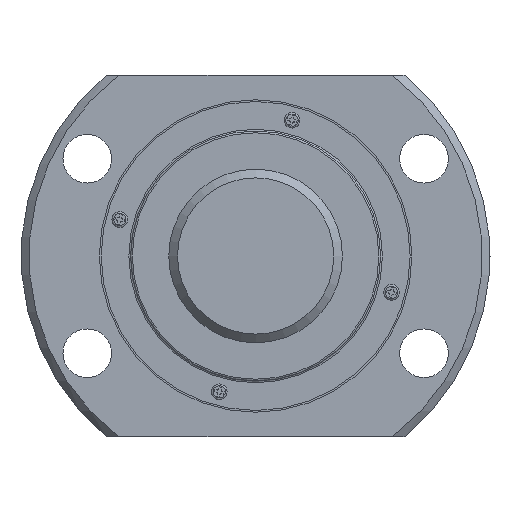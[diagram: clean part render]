
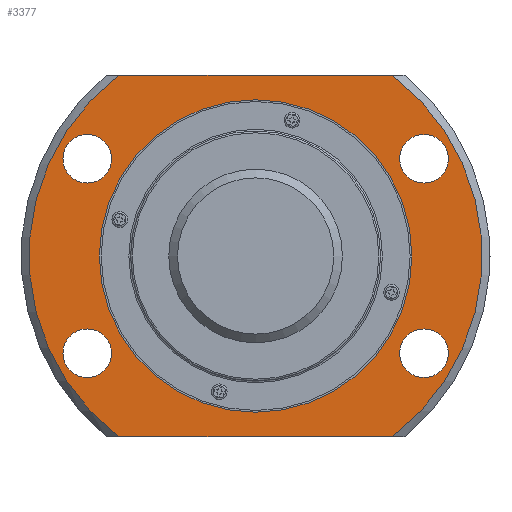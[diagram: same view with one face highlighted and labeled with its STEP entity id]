
A CAD part, left-side view. The second image highlights one B-rep face of the part: STEP entity #3377.
In plain terms, the highlighted planar face has unit normal (-1, 0, 0).
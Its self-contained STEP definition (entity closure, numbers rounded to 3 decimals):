
#37=LINE('',#5080,#365);
#38=LINE('',#5081,#366);
#365=VECTOR('',#4023,1000.);
#366=VECTOR('',#4024,1000.);
#721=PLANE('',#3628);
#887=ORIENTED_EDGE('',*,*,#1823,.T.);
#888=ORIENTED_EDGE('',*,*,#1824,.T.);
#889=ORIENTED_EDGE('',*,*,#1825,.T.);
#890=ORIENTED_EDGE('',*,*,#1826,.T.);
#891=ORIENTED_EDGE('',*,*,#1827,.T.);
#892=ORIENTED_EDGE('',*,*,#1818,.F.);
#893=ORIENTED_EDGE('',*,*,#1828,.T.);
#894=ORIENTED_EDGE('',*,*,#1821,.F.);
#895=ORIENTED_EDGE('',*,*,#1829,.T.);
#1818=EDGE_CURVE('',#2286,#2287,#2617,.T.);
#1821=EDGE_CURVE('',#2288,#2289,#2618,.T.);
#1823=EDGE_CURVE('',#2290,#2290,#2619,.T.);
#1824=EDGE_CURVE('',#2291,#2291,#2620,.T.);
#1825=EDGE_CURVE('',#2292,#2292,#2621,.T.);
#1826=EDGE_CURVE('',#2293,#2293,#2622,.T.);
#1827=EDGE_CURVE('',#2294,#2294,#2623,.T.);
#1828=EDGE_CURVE('',#2286,#2289,#37,.T.);
#1829=EDGE_CURVE('',#2288,#2287,#38,.T.);
#2286=VERTEX_POINT('',#5050);
#2287=VERTEX_POINT('',#5052);
#2288=VERTEX_POINT('',#5062);
#2289=VERTEX_POINT('',#5064);
#2290=VERTEX_POINT('',#5071);
#2291=VERTEX_POINT('',#5073);
#2292=VERTEX_POINT('',#5075);
#2293=VERTEX_POINT('',#5077);
#2294=VERTEX_POINT('',#5079);
#2617=CIRCLE('',#3625,65.25);
#2618=CIRCLE('',#3627,65.25);
#2619=CIRCLE('',#3629,45.);
#2620=CIRCLE('',#3630,7.);
#2621=CIRCLE('',#3631,7.);
#2622=CIRCLE('',#3632,7.);
#2623=CIRCLE('',#3633,7.);
#2759=EDGE_LOOP('',(#887));
#2760=EDGE_LOOP('',(#888));
#2761=EDGE_LOOP('',(#889));
#2762=EDGE_LOOP('',(#890));
#2763=EDGE_LOOP('',(#891));
#2764=EDGE_LOOP('',(#892,#893,#894,#895));
#3043=FACE_BOUND('',#2759,.T.);
#3044=FACE_BOUND('',#2760,.T.);
#3045=FACE_BOUND('',#2761,.T.);
#3046=FACE_BOUND('',#2762,.T.);
#3047=FACE_BOUND('',#2763,.T.);
#3048=FACE_BOUND('',#2764,.T.);
#3377=ADVANCED_FACE('',(#3043,#3044,#3045,#3046,#3047,#3048),#721,.T.);
#3625=AXIS2_PLACEMENT_3D('',#5051,#4005,#4006);
#3627=AXIS2_PLACEMENT_3D('',#5063,#4009,#4010);
#3628=AXIS2_PLACEMENT_3D('',#5069,#4011,#4012);
#3629=AXIS2_PLACEMENT_3D('',#5070,#4013,#4014);
#3630=AXIS2_PLACEMENT_3D('',#5072,#4015,#4016);
#3631=AXIS2_PLACEMENT_3D('',#5074,#4017,#4018);
#3632=AXIS2_PLACEMENT_3D('',#5076,#4019,#4020);
#3633=AXIS2_PLACEMENT_3D('',#5078,#4021,#4022);
#4005=DIRECTION('',(1.,0.,0.));
#4006=DIRECTION('',(0.,0.,-1.));
#4009=DIRECTION('',(1.,0.,0.));
#4010=DIRECTION('',(0.,0.,-1.));
#4011=DIRECTION('',(-1.,0.,0.));
#4012=DIRECTION('',(0.,0.,1.));
#4013=DIRECTION('',(1.,0.,0.));
#4014=DIRECTION('',(0.,0.,-1.));
#4015=DIRECTION('',(1.,0.,0.));
#4016=DIRECTION('',(0.,0.,-1.));
#4017=DIRECTION('',(1.,0.,0.));
#4018=DIRECTION('',(0.,0.,-1.));
#4019=DIRECTION('',(1.,0.,0.));
#4020=DIRECTION('',(0.,0.,-1.));
#4021=DIRECTION('',(1.,0.,0.));
#4022=DIRECTION('',(0.,0.,-1.));
#4023=DIRECTION('',(0.,1.,0.));
#4024=DIRECTION('',(0.,-1.,0.));
#5050=CARTESIAN_POINT('',(14.,-39.415,52.));
#5051=CARTESIAN_POINT('',(14.,0.,0.));
#5052=CARTESIAN_POINT('',(14.,-39.415,-52.));
#5062=CARTESIAN_POINT('',(14.,39.415,-52.));
#5063=CARTESIAN_POINT('',(14.,0.,0.));
#5064=CARTESIAN_POINT('',(14.,39.415,52.));
#5069=CARTESIAN_POINT('',(14.,65.25,0.));
#5070=CARTESIAN_POINT('',(14.,0.,0.));
#5071=CARTESIAN_POINT('',(14.,0.,-45.));
#5072=CARTESIAN_POINT('',(14.,-48.497,28.));
#5073=CARTESIAN_POINT('',(14.,-48.497,21.));
#5074=CARTESIAN_POINT('',(14.,48.497,-28.));
#5075=CARTESIAN_POINT('',(14.,48.497,-35.));
#5076=CARTESIAN_POINT('',(14.,-48.497,-28.));
#5077=CARTESIAN_POINT('',(14.,-48.497,-35.));
#5078=CARTESIAN_POINT('',(14.,48.497,28.));
#5079=CARTESIAN_POINT('',(14.,48.497,21.));
#5080=CARTESIAN_POINT('',(14.,65.25,52.));
#5081=CARTESIAN_POINT('',(14.,65.25,-52.));
